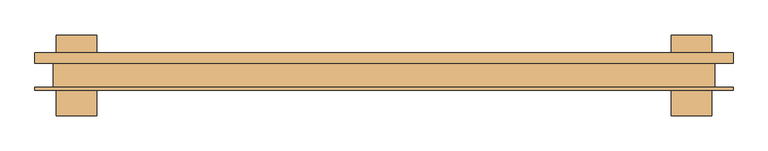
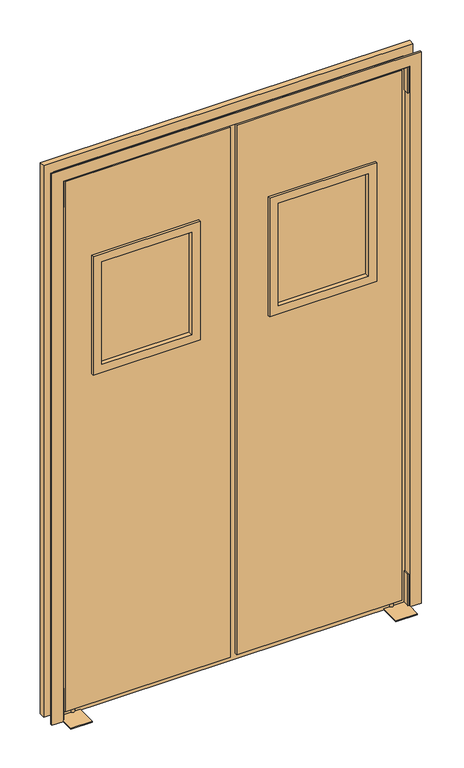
"""IFC4 building model written with IfcOpenShell, lengths in millimetres: door geometry, 両開きスイングドア_窓付_SCG : W1215xH2005xt21."""

import ifcopenshell
import ifcopenshell.guid

model = None  # the IFC model being written
_history = None  # IfcOwnerHistory: only IFC2X3 demands one
_inside = {}  # id of a spatial element -> (the spatial element, [elements in it])
_under = {}  # id of a project, library or spatial element -> (it, [spatial elements below it])
_declared = {}  # id of a project -> (the project, [libraries it declares])
_typed = {}  # id of a type object -> (the type object, [elements of that type])
_made_of = {}  # id of a material, layer set ... -> (it, [elements and type objects made of it])


def new_model(schema):
    """Start an empty IFC model of exactly this schema.

    Asked for "IFC4X3", IfcOpenShell would pick the latest addendum, in which some entities
    have other attributes; the version numbers below select the first issue.
    IFC2X3 requires an IfcOwnerHistory on every rooted entity: one is made here for all.
    """
    global model, _history
    if schema == "IFC4X3":
        model = ifcopenshell.file(schema_version=(4, 3, 0, 0))
    else:
        model = ifcopenshell.file(schema=schema)
    _inside.clear()
    _under.clear()
    _declared.clear()
    _typed.clear()
    _made_of.clear()
    _history = None
    if model.schema == "IFC2X3":
        org = make("IfcOrganization", Name="unknown")
        user = make(
            "IfcPersonAndOrganization",
            ThePerson=make("IfcPerson", FamilyName="unknown"),
            TheOrganization=org,
        )
        app = make(
            "IfcApplication",
            ApplicationDeveloper=org,
            Version="unknown",
            ApplicationFullName="unknown",
            ApplicationIdentifier="unknown",
        )
        _history = make(
            "IfcOwnerHistory",
            OwningUser=user,
            OwningApplication=app,
            ChangeAction="ADDED",
            CreationDate=0,
        )
    return model


def make(cls, **values):
    """One entity of the class cls with the attributes given. An attribute that is None is left unset."""
    return model.create_entity(
        cls, **{name: value for name, value in values.items() if value is not None}
    )


def rooted(cls, **values):
    """An entity with a GlobalId (a new one), such as an element, a storey or a relation."""
    return make(cls, GlobalId=ifcopenshell.guid.new(), OwnerHistory=_history, **values)


def si_unit(unit_type, name, prefix=None):
    """IfcSIUnit, for example si_unit("LENGTHUNIT", "METRE", prefix="MILLI")."""
    return make("IfcSIUnit", UnitType=unit_type, Prefix=prefix, Name=name)


def assignment(units):
    """IfcUnitAssignment: the units of a project."""
    return None if units is None else make("IfcUnitAssignment", Units=units)


def point(xyz):
    """IfcCartesianPoint."""
    return None if xyz is None else make("IfcCartesianPoint", Coordinates=xyz)


def direction(xyz):
    """IfcDirection."""
    return None if xyz is None else make("IfcDirection", DirectionRatios=xyz)


def frame(location, z_axis=None, x_axis=None):
    """IfcAxis2Placement3D, a coordinate frame: its origin and axes. An axis left out is left unset."""
    return make(
        "IfcAxis2Placement3D",
        Location=point(location),
        Axis=direction(z_axis),
        RefDirection=direction(x_axis),
    )


def frame_2d(location, x_axis=None):
    """IfcAxis2Placement2D, a coordinate frame in the plane: its origin and x axis."""
    return make(
        "IfcAxis2Placement2D", Location=point(location), RefDirection=direction(x_axis)
    )


def origin():
    """The frame at (0, 0, 0) with its axes left unset."""
    return frame((0.0, 0.0, 0.0))


def place(relative_to, where):
    """IfcLocalPlacement: puts the frame where relative to a parent placement (None: the world)."""
    return make(
        "IfcLocalPlacement", PlacementRelTo=relative_to, RelativePlacement=where
    )


def context(
    kind, dimensions, precision=None, world=None, true_north=None, identifier=None
):
    """IfcGeometricRepresentationContext, for example the 3D "Model" context."""
    return make(
        "IfcGeometricRepresentationContext",
        ContextIdentifier=identifier,
        ContextType=kind,
        CoordinateSpaceDimension=dimensions,
        Precision=precision,
        WorldCoordinateSystem=world,
        TrueNorth=true_north,
    )


def project(units=None, contexts=None):
    """IfcProject with its units and contexts."""
    return rooted(
        "IfcProject",
        Name="project",
        RepresentationContexts=contexts,
        UnitsInContext=assignment(units),
    )


def spatial(cls, under=None, at=None, **own):
    """A site, building, storey or space (cls), placed at a placement, below another one or the project."""
    s = rooted(cls, ObjectPlacement=at, **own)
    if under is not None:
        _under.setdefault(under.id(), (under, []))[1].append(s)
    return s


def polyline(points):
    """IfcPolyline through the points."""
    return make("IfcPolyline", Points=[point(p) for p in points])


def circle_curve(where, radius):
    """IfcCircle in the frame where."""
    return make("IfcCircle", Position=where, Radius=radius)


def trimmed(basis, trim1, trim2, sense, master):
    """IfcTrimmedCurve: the piece of a basis curve between two trims."""
    return make(
        "IfcTrimmedCurve",
        BasisCurve=basis,
        Trim1=trim1,
        Trim2=trim2,
        SenseAgreement=sense,
        MasterRepresentation=master,
    )


def segment(curve, same_sense, transition):
    """IfcCompositeCurveSegment."""
    return make(
        "IfcCompositeCurveSegment",
        Transition=transition,
        SameSense=same_sense,
        ParentCurve=curve,
    )


def composite_curve(segments, self_intersect=None):
    """IfcCompositeCurve: segments joined end to end."""
    return make("IfcCompositeCurve", Segments=segments, SelfIntersect=self_intersect)


def outline(outer, holes=None, kind="AREA"):
    """IfcArbitraryClosedProfileDef: a profile drawn as a closed curve; with holes, ...WithVoids."""
    if holes is None:
        return make("IfcArbitraryClosedProfileDef", ProfileType=kind, OuterCurve=outer)
    return make(
        "IfcArbitraryProfileDefWithVoids",
        ProfileType=kind,
        OuterCurve=outer,
        InnerCurves=holes,
    )


def extrude(swept, where, along, depth):
    """IfcExtrudedAreaSolid: the profile swept, set in the frame where, extruded along a direction by depth."""
    return make(
        "IfcExtrudedAreaSolid",
        SweptArea=swept,
        Position=where,
        ExtrudedDirection=direction(along),
        Depth=depth,
    )


def faces_of(points, faces, orient=None, outer=None):
    """IfcFace entities. A face is a list of loops; a loop is a list of indices into points, from 0.

    orient and outer hold one flag for each loop. By default every Orientation is true, the
    first loop of a face is its IfcFaceOuterBound and the others are IfcFaceBound.
    """
    made = []
    for i, loops in enumerate(faces):
        bounds = []
        for j, loop in enumerate(loops):
            is_outer = j == 0 if outer is None else outer[i][j]
            bounds.append(
                make(
                    "IfcFaceOuterBound" if is_outer else "IfcFaceBound",
                    Bound=make("IfcPolyLoop", Polygon=[points[k] for k in loop]),
                    Orientation=True if orient is None else orient[i][j],
                )
            )
        made.append(make("IfcFace", Bounds=bounds))
    return made


def faceted_brep(points, faces, orient=None, outer=None, voids=None):
    """IfcFacetedBrep: a solid bounded by flat faces; with voids (closed shells), ...WithVoids."""
    shared = [point(p) for p in points]
    hull = make("IfcClosedShell", CfsFaces=faces_of(shared, faces, orient, outer))
    if voids is None:
        return make("IfcFacetedBrep", Outer=hull)
    return make(
        "IfcFacetedBrepWithVoids",
        Outer=hull,
        Voids=[
            make(cls, CfsFaces=faces_of(shared, fs, o, b)) for cls, fs, o, b in voids
        ],
    )


def shape(context_of_items, identifier, shape_type, items):
    """IfcShapeRepresentation: the items that make up one representation, for example the "Body"."""
    return make(
        "IfcShapeRepresentation",
        ContextOfItems=context_of_items,
        RepresentationIdentifier=identifier,
        RepresentationType=shape_type,
        Items=items,
    )


def source(mapping_origin, context_of_items, identifier, shape_type, items):
    """IfcRepresentationMap: a shape defined once, which mapped items show again and again."""
    return make(
        "IfcRepresentationMap",
        MappingOrigin=mapping_origin,
        MappedRepresentation=shape(context_of_items, identifier, shape_type, items),
    )


def transform(
    local_origin,
    x_axis=None,
    y_axis=None,
    z_axis=None,
    scale=None,
    scale2=None,
    scale3=None,
    uniform=True,
):
    """IfcCartesianTransformationOperator3D, or its non-uniform kind. x_axis, y_axis, z_axis: its Axis1, 2, 3."""
    if uniform:
        return make(
            "IfcCartesianTransformationOperator3D",
            Axis1=direction(x_axis),
            Axis2=direction(y_axis),
            LocalOrigin=point(local_origin),
            Scale=scale,
            Axis3=direction(z_axis),
        )
    return make(
        "IfcCartesianTransformationOperator3DnonUniform",
        Axis1=direction(x_axis),
        Axis2=direction(y_axis),
        LocalOrigin=point(local_origin),
        Scale=scale,
        Axis3=direction(z_axis),
        Scale2=scale2,
        Scale3=scale3,
    )


def mapped(mapping_source, mapping_target):
    """IfcMappedItem: shows the shape of a source again, moved by a transform."""
    return make(
        "IfcMappedItem", MappingSource=mapping_source, MappingTarget=mapping_target
    )


def made_of(thing, what):
    """Note that an element or type object is made of a material, layer set ...; save() writes the relation."""
    if what is not None:
        _made_of.setdefault(what.id(), (what, []))[1].append(thing)
    return thing


def element(
    cls,
    number,
    at=None,
    inside=None,
    cuts=None,
    type_object=None,
    material=None,
    context=None,
    identifier="Body",
    shape_type=None,
    held_by="IfcProductDefinitionShape",
    body=None,
    shapes=None,
    **own,
):
    """One element of the class cls, such as IfcWall. Its Tag is "e" and its number.

    at: its placement. inside: the storey or other place that contains it. cuts: it is an
    opening in that element (IfcRelVoidsElement). A single representation is given by context,
    identifier, shape_type and body (its items); several are given by shapes. held_by: the class
    of the entity that holds the representations. save() writes the other relations.
    """
    e = rooted(cls, Tag="e%d" % number, ObjectPlacement=at, **own)
    if body is not None:
        shapes = [shape(context, identifier, shape_type, body)]
    if shapes is not None:
        e.Representation = make(held_by, Representations=shapes)
    if inside is not None:
        _inside.setdefault(inside.id(), (inside, []))[1].append(e)
    if cuts is not None:
        rooted(
            "IfcRelVoidsElement", RelatingBuildingElement=cuts, RelatedOpeningElement=e
        )
    if type_object is not None:
        _typed.setdefault(type_object.id(), (type_object, []))[1].append(e)
    return made_of(e, material)


def aggregate(whole, parts):
    """IfcRelAggregates: a whole, such as a stair, and the parts it consists of."""
    return rooted("IfcRelAggregates", RelatingObject=whole, RelatedObjects=parts)


def save(model, path):
    """Write the relations noted so far, then the file.

    IfcRelAggregates (storeys below a building ...), IfcRelContainedInSpatialStructure (elements
    in a storey), IfcRelDefinesByType, IfcRelAssociatesMaterial and IfcRelDeclares: one each for
    every whole, place, type object, material and project.
    """
    for whole, parts in _under.values():
        aggregate(whole, parts)
    for where, things in _inside.values():
        rooted(
            "IfcRelContainedInSpatialStructure",
            RelatedElements=things,
            RelatingStructure=where,
        )
    for kind, things in _typed.values():
        rooted("IfcRelDefinesByType", RelatedObjects=things, RelatingType=kind)
    for what, things in _made_of.values():
        rooted("IfcRelAssociatesMaterial", RelatedObjects=things, RelatingMaterial=what)
    for by, libraries in _declared.values():
        rooted("IfcRelDeclares", RelatingContext=by, RelatedDefinitions=libraries)
    model.write(path)


def door_acf1a07b(model_context):
    return source(origin(), model_context, "Body", "SolidModel", [
        extrude(outline(polyline([(2005.0, 607.5), (2005.0, -607.5), (0.0, -607.5), (0.0, 607.5), (2005.0, 607.5)]), holes=[polyline([(1985.0, 590.5), (20.0, 590.5), (20.0, 11.0), (1985.0, 11.0), (1985.0, 590.5)]), polyline([(1985.0, -11.0), (20.0, -11.0), (20.0, -590.5), (1985.0, -590.5), (1985.0, -11.0)])]), frame((0.0, -1.0, 0.0), z_axis=(0.0, 1.0, 0.0), x_axis=(0.0, 0.0, 1.0)), (0.0, 0.0, 1.0), 2.0),
        faceted_brep([(-607.5, -28.000005, 0.0), (-647.499995, -28.000005, 0.0), (-647.499995, -22.0, 0.0), (-613.5, -22.0, 0.0), (-613.5, 22.0, 0.0), (-647.5, 22.0, 0.0), (-647.5, 42.0, 0.0), (-607.5, 42.0, 0.0), (-607.5, -28.000005, 2005.0), (607.5, -28.000005, 2005.0), (607.5, -28.000005, 0.0), (647.499995, -28.000005, 0.0), (647.499995, -28.000005, 2044.999995), (-647.499995, -28.000005, 2044.999995), (-647.499995, -22.0, 2044.999995), (647.499995, -22.0, 2044.999995), (647.499995, -22.0, 0.0), (613.5, -22.0, 0.0), (613.5, -22.0, 2011.0), (-613.5, -22.0, 2011.0), (-613.5, 22.0, 2011.0), (613.5, 22.0, 2011.0), (613.5, 22.0, 0.0), (647.5, 22.0, 0.0), (647.5, 22.0, 2045.0), (-647.5, 22.0, 2045.0), (-647.5, 42.0, 2045.0), (647.5, 42.0, 2045.0), (647.5, 42.0, 0.0), (607.5, 42.0, 0.0), (607.5, 42.0, 2005.0), (-607.5, 42.0, 2005.0)], [[[0, 1, 2, 3, 4, 5, 6, 7]], [[1, 0, 8, 9, 10, 11, 12, 13]], [[2, 1, 13, 14]], [[3, 2, 14, 15, 16, 17, 18, 19]], [[4, 3, 19, 20]], [[5, 4, 20, 21, 22, 23, 24, 25]], [[6, 5, 25, 26]], [[7, 6, 26, 27, 28, 29, 30, 31]], [[0, 7, 31, 8]], [[9, 30, 29, 10]], [[10, 29, 28, 23, 22, 17, 16, 11]], [[15, 12, 11, 16]], [[21, 18, 17, 22]], [[27, 24, 23, 28]], [[20, 19, 18, 21]], [[26, 25, 24, 27]], [[8, 31, 30, 9]], [[14, 13, 12, 15]]]),
        extrude(outline(polyline([(467.0, -2.5), (152.0, -2.5), (152.0, 2.5), (467.0, 2.5), (467.0, -2.5)])), frame((0.0, 0.0, 1270.0), z_axis=(0.0, 0.0, 1.0), x_axis=(1.0, 0.0, 0.0)), (0.0, 0.0, 1.0), 380.0),
        extrude(outline(polyline([(-152.0, -2.5), (-467.0, -2.5), (-467.0, 2.5), (-152.0, 2.5), (-152.0, -2.5)])), frame((0.0, 0.0, 1270.0), z_axis=(0.0, 0.0, 1.0), x_axis=(1.0, 0.0, 0.0)), (0.0, 0.0, 1.0), 380.0),
        extrude(outline(polyline([(1240.0, 122.0), (1240.0, 497.0), (1680.0, 497.0), (1680.0, 122.0), (1240.0, 122.0)]), holes=[polyline([(1650.0, 152.0), (1650.0, 467.0), (1270.0, 467.0), (1270.0, 152.0), (1650.0, 152.0)])]), frame((0.0, -18.5, 0.0), z_axis=(0.0, 1.0, 0.0), x_axis=(0.0, 0.0, 1.0)), (0.0, 0.0, 1.0), 37.0),
        extrude(outline(polyline([(1680.0, -122.0), (1680.0, -497.0), (1240.0, -497.0), (1240.0, -122.0), (1680.0, -122.0)]), holes=[polyline([(1270.0, -152.0), (1270.0, -467.0), (1650.0, -467.0), (1650.0, -152.0), (1270.0, -152.0)])]), frame((0.0, -18.5, 0.0), z_axis=(0.0, 1.0, 0.0), x_axis=(0.0, 0.0, 1.0)), (0.0, 0.0, 1.0), 37.0),
        extrude(outline(polyline([(1985.0, 11.0), (20.0, 11.0), (20.0, 590.5), (1985.0, 590.5), (1985.0, 11.0)]), holes=[polyline([(1240.0, 122.0), (1680.0, 122.0), (1680.0, 497.0), (1240.0, 497.0), (1240.0, 122.0)])]), frame((0.0, -10.5, 0.0), z_axis=(0.0, 1.0, 0.0), x_axis=(0.0, 0.0, 1.0)), (0.0, 0.0, 1.0), 21.0),
        extrude(outline(polyline([(1985.0, -11.0), (1985.0, -590.5), (20.0, -590.5), (20.0, -11.0), (1985.0, -11.0)]), holes=[polyline([(1240.0, -122.0), (1240.0, -497.0), (1680.0, -497.0), (1680.0, -122.0), (1240.0, -122.0)])]), frame((0.0, -10.5, 0.0), z_axis=(0.0, 1.0, 0.0), x_axis=(0.0, 0.0, 1.0)), (0.0, 0.0, 1.0), 21.0),
        extrude(outline(polyline([(2001.00012, 437.49968), (2001.00012, 603.49982), (1905.00036, 603.49982), (1905.00036, 607.5), (2005.0, 607.5), (2005.0, 437.49968), (2001.00012, 437.49968)])), frame((0.0, -25.0, 0.0), z_axis=(0.0, 1.0, 0.0), x_axis=(0.0, 0.0, 1.0)), (0.0, 0.0, 1.0), 50.0),
        extrude(outline(polyline([(2001.00012, -437.49968), (2005.0, -437.49968), (2005.0, -607.5), (1905.00036, -607.5), (1905.00036, -603.49982), (2001.00012, -603.49982), (2001.00012, -437.49968)])), frame((0.0, -25.0, 0.0), z_axis=(0.0, 1.0, 0.0), x_axis=(0.0, 0.0, 1.0)), (0.0, 0.0, 1.0), 50.0),
        extrude(outline(composite_curve([segment(trimmed(circle_curve(frame_2d((-558.999995, 0.0)), 6.5), [point((-558.999995, -6.5))], [point((-558.999995, 6.5))], False, "CARTESIAN"), True, "CONTINUOUS"), segment(trimmed(circle_curve(frame_2d((-558.999995, 0.0)), 6.5), [point((-558.999995, 6.5))], [point((-558.999995, -6.5))], False, "CARTESIAN"), True, "CONTINUOUS")], self_intersect=False)), frame((0.0, 0.0, 1985.0), z_axis=(0.0, 0.0, 1.0), x_axis=(1.0, 0.0, 0.0)), (0.0, 0.0, 1.0), 16.00012),
        extrude(outline(composite_curve([segment(trimmed(circle_curve(frame_2d((558.999995, 0.0)), 6.5), [point((558.999995, -6.5))], [point((558.999995, 6.5))], False, "CARTESIAN"), True, "CONTINUOUS"), segment(trimmed(circle_curve(frame_2d((558.999995, 0.0)), 6.5), [point((558.999995, 6.5))], [point((558.999995, -6.5))], False, "CARTESIAN"), True, "CONTINUOUS")], self_intersect=False)), frame((0.0, 0.0, 1985.0), z_axis=(0.0, 0.0, 1.0), x_axis=(1.0, 0.0, 0.0)), (0.0, 0.0, 1.0), 16.00012),
        extrude(outline(composite_curve([segment(trimmed(circle_curve(frame_2d((558.999995, 0.0)), 6.5), [point((552.499995, 0.0))], [point((565.499995, 0.0))], False, "CARTESIAN"), True, "CONTINUOUS"), segment(trimmed(circle_curve(frame_2d((558.999995, 0.0)), 6.5), [point((565.499995, 0.0))], [point((552.499995, 0.0))], False, "CARTESIAN"), True, "CONTINUOUS")], self_intersect=False)), frame((0.0, 0.0, 4.0), z_axis=(0.0, 0.0, 1.0), x_axis=(1.0, 0.0, 0.0)), (0.0, 0.0, 1.0), 16.0),
        extrude(outline(composite_curve([segment(trimmed(circle_curve(frame_2d((-558.999995, 0.0)), 6.5), [point((-565.499995, 0.0))], [point((-552.499995, 0.0))], False, "CARTESIAN"), True, "CONTINUOUS"), segment(trimmed(circle_curve(frame_2d((-558.999995, 0.0)), 6.5), [point((-552.499995, 0.0))], [point((-565.499995, 0.0))], False, "CARTESIAN"), True, "CONTINUOUS")], self_intersect=False)), frame((0.0, 0.0, 4.0), z_axis=(0.0, 0.0, 1.0), x_axis=(1.0, 0.0, 0.0)), (0.0, 0.0, 1.0), 16.0),
        faceted_brep([(603.50032, -25.0, 120.0), (603.50032, -25.0, 4.0), (607.5, -25.0, 4.0), (607.5, -25.0, 120.0), (603.50032, 25.0, 120.0), (607.5, 25.0, 120.0), (607.5, 25.0, 4.0), (603.50032, 25.0, 4.0), (607.5, -75.0, 4.0), (607.5, -75.0, 0.0), (607.5, 75.0, 0.0), (607.5, 75.0, 4.0), (532.50032, -75.0, 0.0), (532.50032, 75.0, 0.0), (532.50032, -75.0, 4.0), (532.50032, 75.0, 4.0)], [[[0, 1, 2, 3]], [[4, 5, 6, 7]], [[0, 3, 5, 4]], [[5, 3, 2, 8, 9, 10, 11, 6]], [[10, 9, 12, 13]], [[13, 12, 14, 15]], [[15, 14, 8, 2, 1, 7, 6, 11]], [[1, 0, 4, 7]], [[14, 12, 9, 8]], [[15, 11, 10, 13]]]),
        faceted_brep([(-603.50032, -25.0, 120.0), (-607.5, -25.0, 120.0), (-607.5, -25.0, 4.0), (-603.50032, -25.0, 4.0), (-603.50032, 25.0, 120.0), (-603.50032, 25.0, 4.0), (-607.5, 25.0, 4.0), (-607.5, 25.0, 120.0), (-607.5, 75.0, 4.0), (-607.5, 75.0, 0.0), (-607.5, -75.0, 0.0), (-607.5, -75.0, 4.0), (-532.50032, 75.0, 0.0), (-532.50032, -75.0, 0.0), (-532.50032, 75.0, 4.0), (-532.50032, -75.0, 4.0)], [[[0, 1, 2, 3]], [[4, 5, 6, 7]], [[1, 0, 4, 7]], [[1, 7, 6, 8, 9, 10, 11, 2]], [[10, 9, 12, 13]], [[13, 12, 14, 15]], [[15, 14, 8, 6, 5, 3, 2, 11]], [[0, 3, 5, 4]], [[15, 11, 10, 13]], [[14, 12, 9, 8]]]),
    ])


if __name__ == "__main__":
    model = new_model("IFC4")
    model_context = context("Model", 3, world=origin())
    ifc_project = project(units=[si_unit("LENGTHUNIT", "METRE", prefix="MILLI")], contexts=[model_context])
    site = spatial("IfcSite", under=ifc_project)
    building = spatial("IfcBuilding", under=site)
    placement = place(None, origin())
    door_shape = door_acf1a07b(model_context)
    element("IfcDoor", 1, ObjectType="両開きスイングドア_窓付_SCG : W1215xH2005xt21", at=placement, inside=building, context=model_context, shape_type="MappedRepresentation", body=[
        mapped(door_shape, transform((0.0, 0.0, 0.0), x_axis=(1.0, 0.0, 0.0), y_axis=(0.0, 1.0, 0.0), z_axis=(0.0, 0.0, 1.0))),
    ])
    save(model, "model.ifc")
